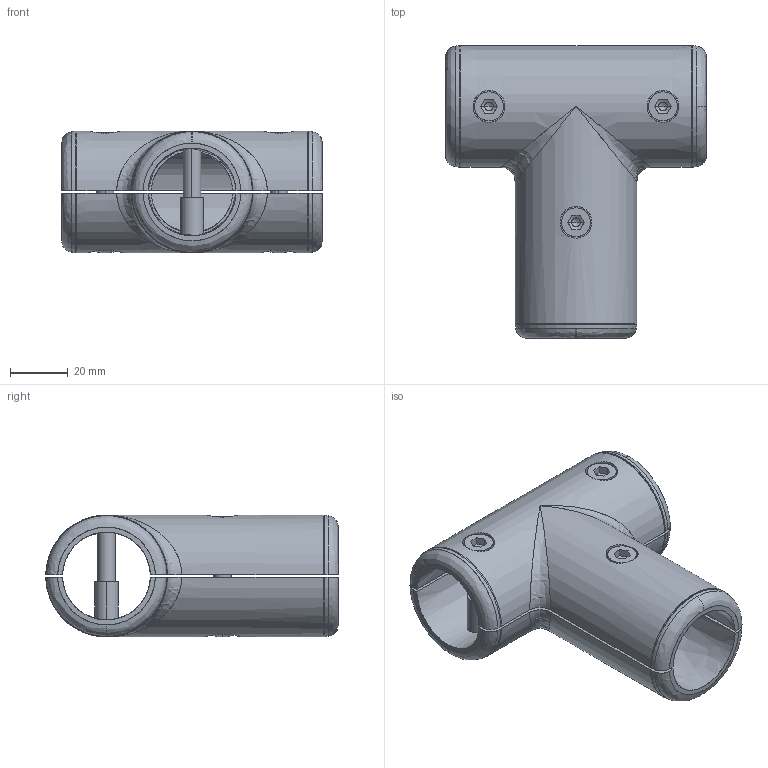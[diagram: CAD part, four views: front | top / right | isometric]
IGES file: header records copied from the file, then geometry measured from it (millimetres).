
Start section: SolidWorks IGES file using analytic representation for surfaces
Global section: file name: C:\Users\Gerard\OneDrive - Tecnodin, S.L\Escritorio\30 mm Verbinder im step. Format\31000410003.IGS; native system: SolidWorks 2016; preprocessor: SolidWorks 2016; author: Gerard; date: 240902.114612; units: millimetre
Bounding box: 90 x 100.99 x 42 mm (x, y, z)
Surface area: 42625.6 mm2 (no closed solid volume)
Topology: 0 solids, 0 shells, 199 faces, 3618 edges, 3599 vertices
Faces by surface type: revolution 114, bspline 85
